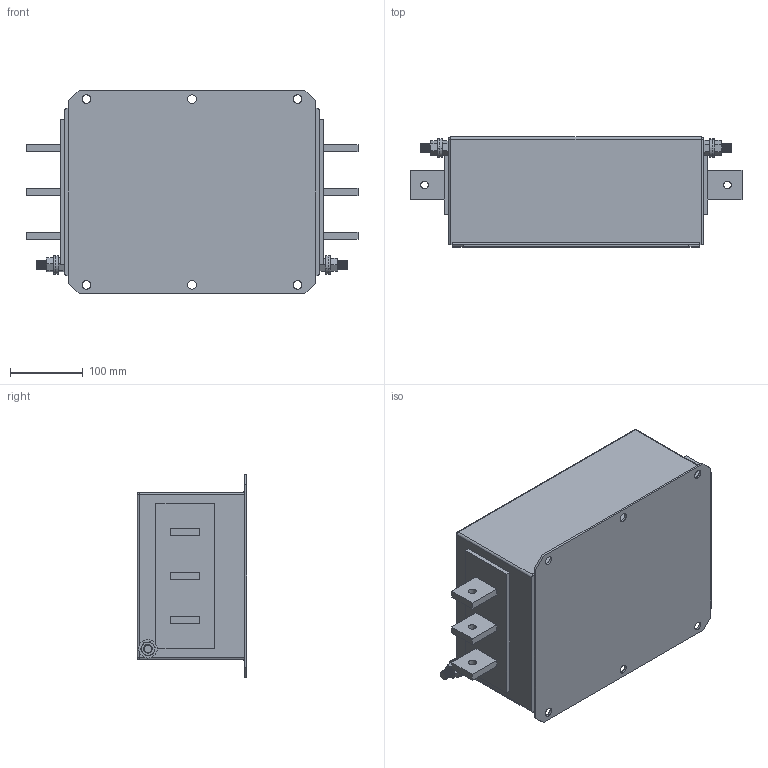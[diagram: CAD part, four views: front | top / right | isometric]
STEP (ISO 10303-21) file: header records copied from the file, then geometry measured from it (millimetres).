
FILE_DESCRIPTION (( 'STEP AP203' ), '1' );
FILE_NAME ('NF-1000 (new).STEP', '2021-06-29T12:51:37', ( '' ), ( '' ), 'SwSTEP 2.0', 'SolidWorks 2017', '' );
FILE_SCHEMA (( 'CONFIG_CONTROL_DESIGN' ));
Length unit declared in the file: millimetre
Products named in the file (6): hex nut style 1_am_B18.2.4.1M - Hex nut, Style 1,  M12 x 1.75 --D-N; hex screw_am_B18.6.7M - M12 x 1.75 x 30 Indented HHMS --30S; FNS-3 -1000 new; flat washer narrow_am_B18.22M - Plain washer, 12 mm, narrow; M12x30 Earth post; NF-1000 (new)
Assembly tree (7 placements, depth 3):
  NF-1000 (new)
    FNS-3 -1000 new
    M12x30 Earth post  x2
      flat washer narrow_am_B18.22M - Plain washer, 12 mm, narrow
      hex nut style 1_am_B18.2.4.1M - Hex nut, Style 1,  M12 x 1.75 --D-N
      hex screw_am_B18.6.7M - M12 x 1.75 x 30 Indented HHMS --30S
Bounding box: 456 x 151 x 280 mm (x, y, z)
Volume: 12472689.1 mm3; surface area: 427356.5 mm2
Topology: 9 solids, 9 shells, 438 faces, 1088 edges, 680 vertices
Faces by surface type: cone 184, cylinder 144, plane 106, sphere 4
Entity records: 8910 total; most frequent: CARTESIAN_POINT 1573, DIRECTION 1496, ORIENTED_EDGE 1336, EDGE_CURVE 668, AXIS2_PLACEMENT_3D 585, VERTEX_POINT 422, LINE 326, VECTOR 326
